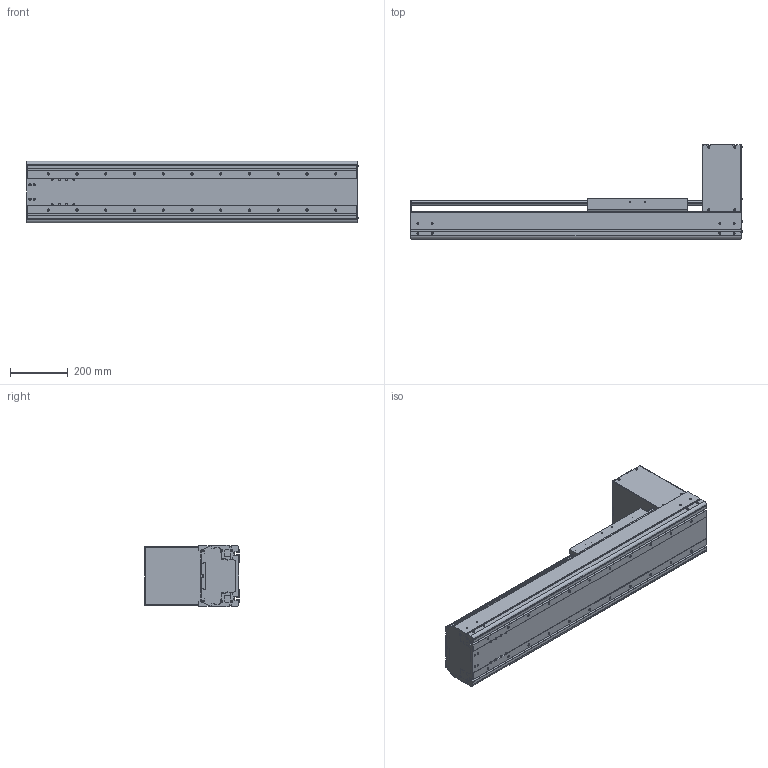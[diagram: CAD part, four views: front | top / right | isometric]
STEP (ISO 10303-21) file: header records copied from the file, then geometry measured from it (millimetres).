
FILE_DESCRIPTION((''),'2;1');
FILE_NAME('BE60J-BT-L19N-55_IGS_PRT','2017-06-18T',(' '),(''),'PRO/ENGINEER BY PARAMETRIC TECHNOLOGY CORPORATION, 2015030','PRO/ENGINEER BY PARAMETRIC TECHNOLOGY CORPORATION, 2015030','');
FILE_SCHEMA(('CONFIG_CONTROL_DESIGN'));
Products named in the file (1): BE60J-BT-L19N-55_IGS_PRT
Bounding box: 1154.4 x 327.5 x 214 mm (x, y, z)
Volume: 8520237.8 mm3; surface area: 2836726.1 mm2
Topology: 1 solids, 195 shells, 1934 faces, 5359 edges, 3544 vertices
Faces by surface type: cylinder 892, plane 794, cone 152, sphere 48, torus 48
Entity records: 63702 total; most frequent: CARTESIAN_POINT 14120, DIRECTION 10463, ORIENTED_EDGE 9756, EDGE_CURVE 5232, AXIS2_PLACEMENT_3D 3889, VERTEX_POINT 3534, VECTOR 2685, LINE 2685
